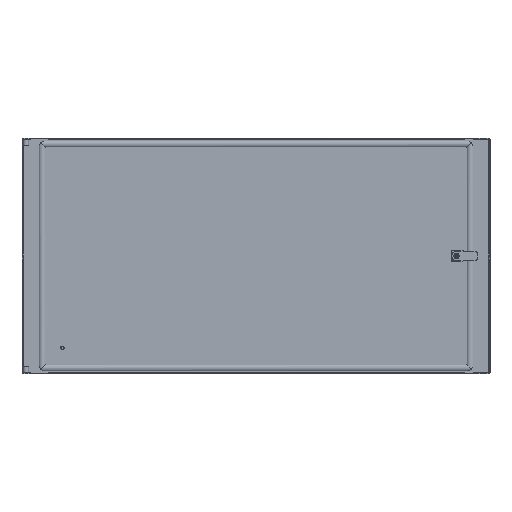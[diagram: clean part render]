
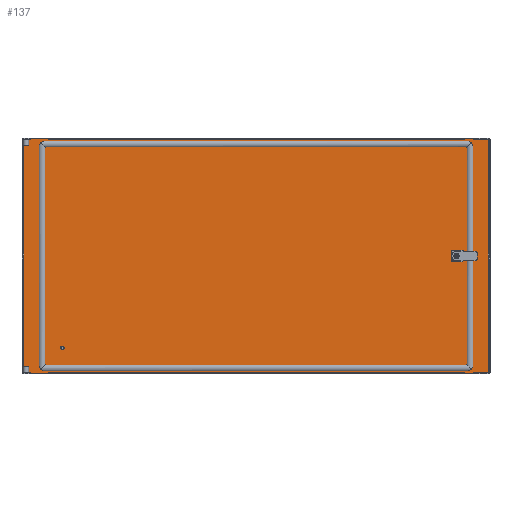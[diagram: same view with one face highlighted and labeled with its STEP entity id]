
A CAD part, top view. The second image highlights one B-rep face of the part: STEP entity #137.
In plain terms, the highlighted planar face has unit normal (0, 0, 1).
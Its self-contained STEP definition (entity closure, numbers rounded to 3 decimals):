
#137=ADVANCED_FACE('',(#702,#704,#706),#708,.T.);
#702=FACE_BOUND('',#703,.T.);
#703=EDGE_LOOP('',(#3435,#3436,#3437,#3438,#3439,#3440,#3441,#3442,#3443,#3444,#3445,
#3446,#3447,#3448,#3449,#3450,#3451,#3452,#3453,#3454,#3455,#3456,#3457,#3458,#3459,
#3460,#3461,#3462));
#704=FACE_BOUND('',#705,.T.);
#705=EDGE_LOOP('',(#3463));
#706=FACE_BOUND('',#707,.T.);
#707=EDGE_LOOP('',(#3464,#3465,#3466,#3467));
#708=PLANE('',#709);
#709=AXIS2_PLACEMENT_3D('',#710,#711,#712);
#710=CARTESIAN_POINT('',(0.,0.,2.));
#711=DIRECTION('',(0.,0.,1.));
#712=DIRECTION('',(1.,0.,0.));
#3435=ORIENTED_EDGE('',*,*,#5245,.F.);
#3436=ORIENTED_EDGE('',*,*,#5225,.F.);
#3437=ORIENTED_EDGE('',*,*,#5152,.F.);
#3438=ORIENTED_EDGE('',*,*,#5246,.F.);
#3439=ORIENTED_EDGE('',*,*,#5247,.F.);
#3440=ORIENTED_EDGE('',*,*,#5248,.F.);
#3441=ORIENTED_EDGE('',*,*,#5249,.F.);
#3442=ORIENTED_EDGE('',*,*,#5221,.F.);
#3443=ORIENTED_EDGE('',*,*,#5156,.F.);
#3444=ORIENTED_EDGE('',*,*,#5250,.F.);
#3445=ORIENTED_EDGE('',*,*,#5251,.F.);
#3446=ORIENTED_EDGE('',*,*,#5252,.F.);
#3447=ORIENTED_EDGE('',*,*,#5253,.F.);
#3448=ORIENTED_EDGE('',*,*,#5254,.F.);
#3449=ORIENTED_EDGE('',*,*,#5255,.F.);
#3450=ORIENTED_EDGE('',*,*,#5176,.F.);
#3451=ORIENTED_EDGE('',*,*,#5149,.F.);
#3452=ORIENTED_EDGE('',*,*,#5256,.T.);
#3453=ORIENTED_EDGE('',*,*,#5257,.T.);
#3454=ORIENTED_EDGE('',*,*,#5258,.T.);
#3455=ORIENTED_EDGE('',*,*,#5143,.F.);
#3456=ORIENTED_EDGE('',*,*,#5174,.F.);
#3457=ORIENTED_EDGE('',*,*,#5141,.F.);
#3458=ORIENTED_EDGE('',*,*,#5259,.T.);
#3459=ORIENTED_EDGE('',*,*,#5260,.T.);
#3460=ORIENTED_EDGE('',*,*,#5261,.T.);
#3461=ORIENTED_EDGE('',*,*,#5135,.F.);
#3462=ORIENTED_EDGE('',*,*,#5182,.F.);
#3463=ORIENTED_EDGE('',*,*,#5133,.F.);
#3464=ORIENTED_EDGE('',*,*,#5262,.F.);
#3465=ORIENTED_EDGE('',*,*,#5263,.F.);
#3466=ORIENTED_EDGE('',*,*,#5264,.F.);
#3467=ORIENTED_EDGE('',*,*,#5265,.F.);
#5133=EDGE_CURVE('',#6052,#6052,#6053,.T.);
#5135=EDGE_CURVE('',#6056,#6057,#6058,.T.);
#5141=EDGE_CURVE('',#6067,#6069,#6070,.T.);
#5143=EDGE_CURVE('',#6072,#6073,#6074,.T.);
#5149=EDGE_CURVE('',#6083,#6085,#6086,.T.);
#5152=EDGE_CURVE('',#6088,#6091,#6092,.T.);
#5156=EDGE_CURVE('',#6096,#6099,#6100,.T.);
#5174=EDGE_CURVE('',#6069,#6072,#6129,.T.);
#5176=EDGE_CURVE('',#6085,#6132,#6133,.T.);
#5182=EDGE_CURVE('',#6141,#6056,#6143,.T.);
#5221=EDGE_CURVE('',#6099,#6206,#6207,.T.);
#5225=EDGE_CURVE('',#6091,#6213,#6214,.T.);
#5245=EDGE_CURVE('',#6213,#6141,#6244,.T.);
#5246=EDGE_CURVE('',#6245,#6088,#6246,.T.);
#5247=EDGE_CURVE('',#6247,#6245,#6248,.T.);
#5248=EDGE_CURVE('',#6249,#6247,#6250,.T.);
#5249=EDGE_CURVE('',#6206,#6249,#6251,.T.);
#5250=EDGE_CURVE('',#6252,#6096,#6253,.T.);
#5251=EDGE_CURVE('',#6254,#6252,#6255,.T.);
#5252=EDGE_CURVE('',#6256,#6254,#6257,.T.);
#5253=EDGE_CURVE('',#6258,#6256,#6259,.T.);
#5254=EDGE_CURVE('',#6260,#6258,#6261,.T.);
#5255=EDGE_CURVE('',#6132,#6260,#6262,.T.);
#5256=EDGE_CURVE('',#6083,#6263,#6264,.T.);
#5257=EDGE_CURVE('',#6263,#6265,#6266,.T.);
#5258=EDGE_CURVE('',#6265,#6073,#6267,.T.);
#5259=EDGE_CURVE('',#6067,#6268,#6269,.T.);
#5260=EDGE_CURVE('',#6268,#6270,#6271,.T.);
#5261=EDGE_CURVE('',#6270,#6057,#6272,.T.);
#5262=EDGE_CURVE('',#6273,#6274,#6275,.T.);
#5263=EDGE_CURVE('',#6276,#6273,#6277,.T.);
#5264=EDGE_CURVE('',#6278,#6276,#6279,.T.);
#5265=EDGE_CURVE('',#6274,#6278,#6280,.T.);
#6052=VERTEX_POINT('',#7567);
#6053=CIRCLE('',#7568,0.5);
#6056=VERTEX_POINT('',#7577);
#6057=VERTEX_POINT('',#7578);
#6058=LINE('',#7579,#7580);
#6067=VERTEX_POINT('',#7598);
#6069=VERTEX_POINT('',#7602);
#6070=LINE('',#7603,#7604);
#6072=VERTEX_POINT('',#7609);
#6073=VERTEX_POINT('',#7610);
#6074=LINE('',#7611,#7612);
#6083=VERTEX_POINT('',#7630);
#6085=VERTEX_POINT('',#7634);
#6086=LINE('',#7635,#7636);
#6088=VERTEX_POINT('',#7641);
#6091=VERTEX_POINT('',#7646);
#6092=LINE('',#7647,#7648);
#6096=VERTEX_POINT('',#7657);
#6099=VERTEX_POINT('',#7662);
#6100=LINE('',#7663,#7664);
#6129=LINE('',#7762,#7763);
#6132=VERTEX_POINT('',#7770);
#6133=LINE('',#7771,#7772);
#6141=VERTEX_POINT('',#7803);
#6143=LINE('',#7820,#7821);
#6206=VERTEX_POINT('',#7979);
#6207=LINE('',#7980,#7981);
#6213=VERTEX_POINT('',#7996);
#6214=LINE('',#7997,#7998);
#6244=LINE('',#8080,#8081);
#6245=VERTEX_POINT('',#8083);
#6246=LINE('',#8084,#8085);
#6247=VERTEX_POINT('',#8087);
#6248=LINE('',#8088,#8089);
#6249=VERTEX_POINT('',#8091);
#6250=LINE('',#8092,#8093);
#6251=LINE('',#8095,#8096);
#6252=VERTEX_POINT('',#8098);
#6253=LINE('',#8099,#8100);
#6254=VERTEX_POINT('',#8102);
#6255=LINE('',#8103,#8104);
#6256=VERTEX_POINT('',#8106);
#6257=LINE('',#8107,#8108);
#6258=VERTEX_POINT('',#8110);
#6259=LINE('',#8111,#8112);
#6260=VERTEX_POINT('',#8114);
#6261=LINE('',#8115,#8116);
#6262=LINE('',#8118,#8119);
#6263=VERTEX_POINT('',#8121);
#6264=LINE('',#8122,#8123);
#6265=VERTEX_POINT('',#8125);
#6266=LINE('',#8126,#8127);
#6267=LINE('',#8129,#8130);
#6268=VERTEX_POINT('',#8132);
#6269=LINE('',#8133,#8134);
#6270=VERTEX_POINT('',#8136);
#6271=LINE('',#8137,#8138);
#6272=LINE('',#8140,#8141);
#6273=VERTEX_POINT('',#8143);
#6274=VERTEX_POINT('',#8144);
#6275=LINE('',#8145,#8146);
#6276=VERTEX_POINT('',#8148);
#6277=LINE('',#8149,#8150);
#6278=VERTEX_POINT('',#8152);
#6279=LINE('',#8153,#8154);
#6280=LINE('',#8156,#8157);
#7567=CARTESIAN_POINT('',(-407.7,-193.5,2.));
#7568=AXIS2_PLACEMENT_3D('',#7569,#7570,#7571);
#7569=CARTESIAN_POINT('',(-408.2,-193.5,2.));
#7570=DIRECTION('',(0.,0.,1.));
#7571=DIRECTION('',(-1.,0.,0.));
#7577=CARTESIAN_POINT('',(460.7,-245.1,2.));
#7578=CARTESIAN_POINT('',(458.7,-245.1,2.));
#7579=CARTESIAN_POINT('',(460.7,-245.1,2.));
#7580=VECTOR('',#7581,1.);
#7581=DIRECTION('',(-1.,0.,0.));
#7598=CARTESIAN_POINT('',(439.2,-245.1,2.));
#7602=CARTESIAN_POINT('',(437.2,-245.1,2.));
#7603=CARTESIAN_POINT('',(439.2,-245.1,2.));
#7604=VECTOR('',#7605,1.);
#7605=DIRECTION('',(-1.,0.,0.));
#7609=CARTESIAN_POINT('',(-436.2,-245.1,2.));
#7610=CARTESIAN_POINT('',(-438.2,-245.1,2.));
#7611=CARTESIAN_POINT('',(-436.2,-245.1,2.));
#7612=VECTOR('',#7613,1.);
#7613=DIRECTION('',(-1.,0.,0.));
#7630=CARTESIAN_POINT('',(-476.2,-245.1,2.));
#7634=CARTESIAN_POINT('',(-478.2,-245.1,2.));
#7635=CARTESIAN_POINT('',(-476.2,-245.1,2.));
#7636=VECTOR('',#7637,1.);
#7637=DIRECTION('',(-1.,0.,0.));
#7641=CARTESIAN_POINT('',(458.7,245.1,2.));
#7646=CARTESIAN_POINT('',(460.7,245.1,2.));
#7647=CARTESIAN_POINT('',(458.7,245.1,2.));
#7648=VECTOR('',#7649,1.);
#7649=DIRECTION('',(1.,0.,0.));
#7657=CARTESIAN_POINT('',(-438.2,245.1,2.));
#7662=CARTESIAN_POINT('',(-436.2,245.1,2.));
#7663=CARTESIAN_POINT('',(-438.2,245.1,2.));
#7664=VECTOR('',#7665,1.);
#7665=DIRECTION('',(1.,0.,0.));
#7762=CARTESIAN_POINT('',(437.2,-245.1,2.));
#7763=VECTOR('',#7764,1.);
#7764=DIRECTION('',(-1.,0.,0.));
#7770=CARTESIAN_POINT('',(-489.8,-245.1,2.));
#7771=CARTESIAN_POINT('',(-478.2,-245.1,2.));
#7772=VECTOR('',#7773,1.);
#7773=DIRECTION('',(-1.,0.,0.));
#7803=CARTESIAN_POINT('',(489.8,-245.1,2.));
#7820=CARTESIAN_POINT('',(489.8,-245.1,2.));
#7821=VECTOR('',#7822,1.);
#7822=DIRECTION('',(-1.,0.,0.));
#7979=CARTESIAN_POINT('',(437.2,245.1,2.));
#7980=CARTESIAN_POINT('',(-436.2,245.1,2.));
#7981=VECTOR('',#7982,1.);
#7982=DIRECTION('',(1.,0.,0.));
#7996=CARTESIAN_POINT('',(489.8,245.1,2.));
#7997=CARTESIAN_POINT('',(460.7,245.1,2.));
#7998=VECTOR('',#7999,1.);
#7999=DIRECTION('',(1.,0.,0.));
#8080=CARTESIAN_POINT('',(489.8,245.1,2.));
#8081=VECTOR('',#8082,1.);
#8082=DIRECTION('',(0.,-1.,0.));
#8083=CARTESIAN_POINT('',(458.7,248.5,2.));
#8084=CARTESIAN_POINT('',(458.7,248.5,2.));
#8085=VECTOR('',#8086,1.);
#8086=DIRECTION('',(0.,-1.,0.));
#8087=CARTESIAN_POINT('',(439.2,248.5,2.));
#8088=CARTESIAN_POINT('',(439.2,248.5,2.));
#8089=VECTOR('',#8090,1.);
#8090=DIRECTION('',(1.,0.,0.));
#8091=CARTESIAN_POINT('',(439.2,245.1,2.));
#8092=CARTESIAN_POINT('',(439.2,245.1,2.));
#8093=VECTOR('',#8094,1.);
#8094=DIRECTION('',(0.,1.,0.));
#8095=CARTESIAN_POINT('',(437.2,245.1,2.));
#8096=VECTOR('',#8097,1.);
#8097=DIRECTION('',(1.,0.,0.));
#8098=CARTESIAN_POINT('',(-438.2,248.5,2.));
#8099=CARTESIAN_POINT('',(-438.2,248.5,2.));
#8100=VECTOR('',#8101,1.);
#8101=DIRECTION('',(0.,-1.,0.));
#8102=CARTESIAN_POINT('',(-476.2,248.5,2.));
#8103=CARTESIAN_POINT('',(-476.2,248.5,2.));
#8104=VECTOR('',#8105,1.);
#8105=DIRECTION('',(1.,0.,0.));
#8106=CARTESIAN_POINT('',(-476.2,245.1,2.));
#8107=CARTESIAN_POINT('',(-476.2,245.1,2.));
#8108=VECTOR('',#8109,1.);
#8109=DIRECTION('',(0.,1.,0.));
#8110=CARTESIAN_POINT('',(-478.2,245.1,2.));
#8111=CARTESIAN_POINT('',(-478.2,245.1,2.));
#8112=VECTOR('',#8113,1.);
#8113=DIRECTION('',(1.,0.,0.));
#8114=CARTESIAN_POINT('',(-489.8,245.1,2.));
#8115=CARTESIAN_POINT('',(-489.8,245.1,2.));
#8116=VECTOR('',#8117,1.);
#8117=DIRECTION('',(1.,0.,0.));
#8118=CARTESIAN_POINT('',(-489.8,-245.1,2.));
#8119=VECTOR('',#8120,1.);
#8120=DIRECTION('',(0.,1.,0.));
#8121=CARTESIAN_POINT('',(-476.2,-248.5,2.));
#8122=CARTESIAN_POINT('',(-476.2,-245.1,2.));
#8123=VECTOR('',#8124,1.);
#8124=DIRECTION('',(0.,-1.,0.));
#8125=CARTESIAN_POINT('',(-438.2,-248.5,2.));
#8126=CARTESIAN_POINT('',(-476.2,-248.5,2.));
#8127=VECTOR('',#8128,1.);
#8128=DIRECTION('',(1.,0.,0.));
#8129=CARTESIAN_POINT('',(-438.2,-248.5,2.));
#8130=VECTOR('',#8131,1.);
#8131=DIRECTION('',(0.,1.,0.));
#8132=CARTESIAN_POINT('',(439.2,-248.5,2.));
#8133=CARTESIAN_POINT('',(439.2,-245.1,2.));
#8134=VECTOR('',#8135,1.);
#8135=DIRECTION('',(0.,-1.,0.));
#8136=CARTESIAN_POINT('',(458.7,-248.5,2.));
#8137=CARTESIAN_POINT('',(439.2,-248.5,2.));
#8138=VECTOR('',#8139,1.);
#8139=DIRECTION('',(1.,0.,0.));
#8140=CARTESIAN_POINT('',(458.7,-248.5,2.));
#8141=VECTOR('',#8142,1.);
#8142=DIRECTION('',(0.,1.,0.));
#8143=CARTESIAN_POINT('',(433.2,-10.6,2.));
#8144=CARTESIAN_POINT('',(433.2,10.6,2.));
#8145=CARTESIAN_POINT('',(433.2,-10.6,2.));
#8146=VECTOR('',#8147,1.);
#8147=DIRECTION('',(0.,1.,0.));
#8148=CARTESIAN_POINT('',(412.,-10.6,2.));
#8149=CARTESIAN_POINT('',(412.,-10.6,2.));
#8150=VECTOR('',#8151,1.);
#8151=DIRECTION('',(1.,0.,0.));
#8152=CARTESIAN_POINT('',(412.,10.6,2.));
#8153=CARTESIAN_POINT('',(412.,10.6,2.));
#8154=VECTOR('',#8155,1.);
#8155=DIRECTION('',(0.,-1.,0.));
#8156=CARTESIAN_POINT('',(433.2,10.6,2.));
#8157=VECTOR('',#8158,1.);
#8158=DIRECTION('',(-1.,0.,0.));
